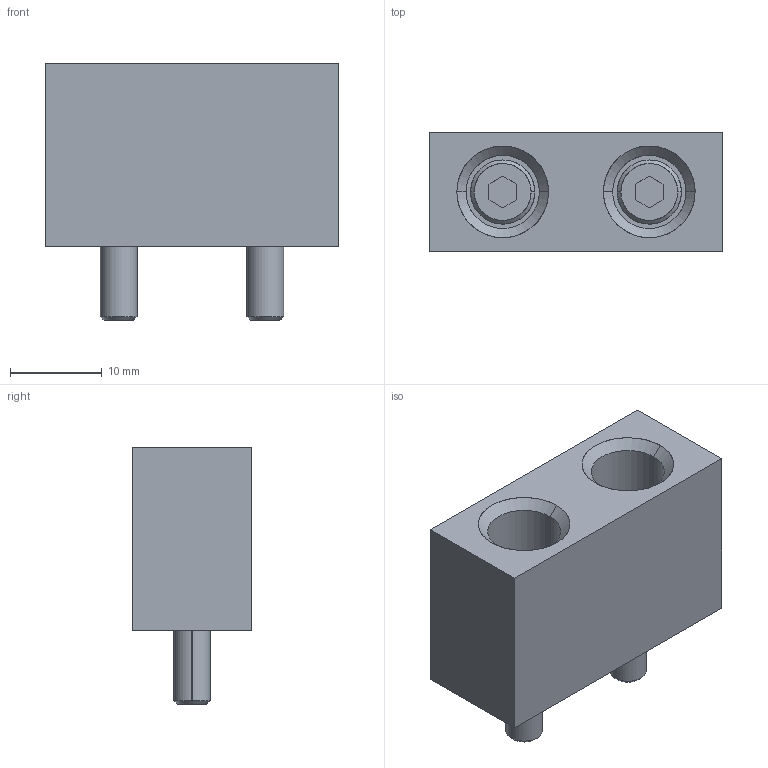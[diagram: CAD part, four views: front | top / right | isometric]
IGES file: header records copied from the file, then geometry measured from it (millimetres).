
Global section: file name: E:\UnigraphicsGraphicData\MISUMI_PRESS-PARTS\IGES\3d_sbvk13-32-20-r-15_00148_r00.igs; native system: NX V5.0; preprocessor: UGS NX IGES V5.0; author: MISUMI; date: 20110105.162509; units: millimetre
Bounding box: 32 x 13 x 28 mm (x, y, z)
Surface area: 4131.4 mm2 (no closed solid volume)
Topology: 0 solids, 0 shells, 56 faces, 336 edges, 336 vertices
Faces by surface type: bspline 56
